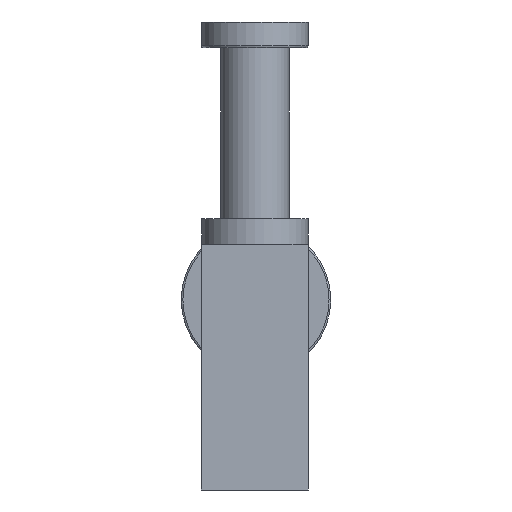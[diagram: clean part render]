
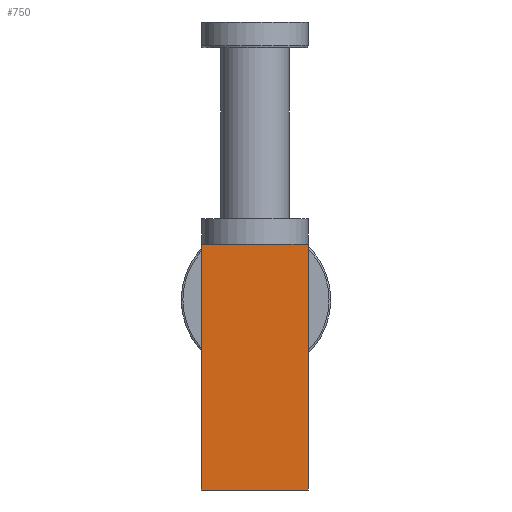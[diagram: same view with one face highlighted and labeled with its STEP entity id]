
A CAD part, front view. The second image highlights one B-rep face of the part: STEP entity #750.
In plain terms, the highlighted planar face has unit normal (-0.002, -1, 0).
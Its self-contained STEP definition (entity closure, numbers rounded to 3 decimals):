
#86 = VERTEX_POINT ( 'NONE', #616 ) ;
#133 = EDGE_CURVE ( 'NONE', #1223, #610, #1064, .T. ) ;
#142 = VECTOR ( 'NONE', #366, 1000. ) ;
#150 = FACE_OUTER_BOUND ( 'NONE', #1176, .T. ) ;
#223 = CARTESIAN_POINT ( 'NONE',  ( 25.054, -25.038, 0. ) ) ;
#228 = DIRECTION ( 'NONE',  ( -1., 0.002, 0. ) ) ;
#366 = DIRECTION ( 'NONE',  ( 1., -0.002, 0. ) ) ;
#385 = ORIENTED_EDGE ( 'NONE', *, *, #831, .T. ) ;
#446 = DIRECTION ( 'NONE',  ( 0.002, 1., 0. ) ) ;
#465 = CARTESIAN_POINT ( 'NONE',  ( 25.054, -25.038, 115. ) ) ;
#549 = PLANE ( 'NONE',  #795 ) ;
#610 = VERTEX_POINT ( 'NONE', #1401 ) ;
#616 = CARTESIAN_POINT ( 'NONE',  ( 25.054, -25.038, 115. ) ) ;
#661 = LINE ( 'NONE', #924, #1204 ) ;
#750 = ADVANCED_FACE ( 'NONE', ( #150 ), #549, .F. ) ;
#786 = VECTOR ( 'NONE', #1279, 1000. ) ;
#795 = AXIS2_PLACEMENT_3D ( 'NONE', #1130, #446, #228 ) ;
#831 = EDGE_CURVE ( 'NONE', #610, #1208, #661, .T. ) ;
#846 = ORIENTED_EDGE ( 'NONE', *, *, #852, .F. ) ;
#852 = EDGE_CURVE ( 'NONE', #86, #1208, #1189, .T. ) ;
#861 = ORIENTED_EDGE ( 'NONE', *, *, #1336, .F. ) ;
#924 = CARTESIAN_POINT ( 'NONE',  ( 25.054, -25.038, 0. ) ) ;
#941 = VECTOR ( 'NONE', #1358, 1000. ) ;
#1064 = LINE ( 'NONE', #1169, #786 ) ;
#1103 = ORIENTED_EDGE ( 'NONE', *, *, #133, .T. ) ;
#1130 = CARTESIAN_POINT ( 'NONE',  ( 25.054, -25.038, 115. ) ) ;
#1149 = CARTESIAN_POINT ( 'NONE',  ( 25.054, -25.038, 115. ) ) ;
#1169 = CARTESIAN_POINT ( 'NONE',  ( -24.946, -24.962, 115. ) ) ;
#1176 = EDGE_LOOP ( 'NONE', ( #385, #846, #861, #1103 ) ) ;
#1189 = LINE ( 'NONE', #465, #941 ) ;
#1204 = VECTOR ( 'NONE', #1369, 1000. ) ;
#1208 = VERTEX_POINT ( 'NONE', #223 ) ;
#1223 = VERTEX_POINT ( 'NONE', #1357 ) ;
#1226 = LINE ( 'NONE', #1149, #142 ) ;
#1279 = DIRECTION ( 'NONE',  ( 0., 0., -1. ) ) ;
#1336 = EDGE_CURVE ( 'NONE', #1223, #86, #1226, .T. ) ;
#1357 = CARTESIAN_POINT ( 'NONE',  ( -24.946, -24.962, 115. ) ) ;
#1358 = DIRECTION ( 'NONE',  ( 0., 0., -1. ) ) ;
#1369 = DIRECTION ( 'NONE',  ( 1., -0.002, 0. ) ) ;
#1401 = CARTESIAN_POINT ( 'NONE',  ( -24.946, -24.962, 0. ) ) ;
